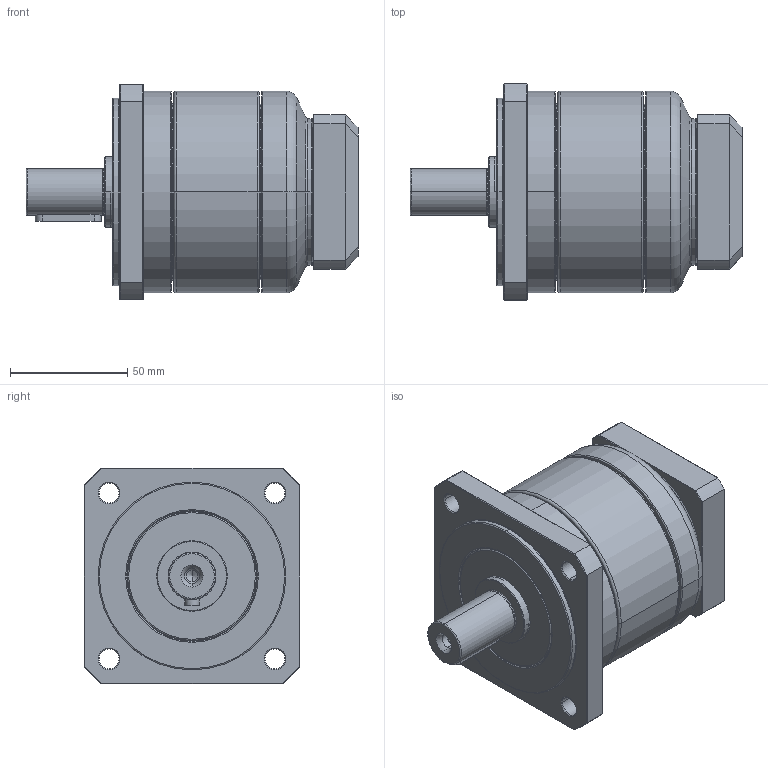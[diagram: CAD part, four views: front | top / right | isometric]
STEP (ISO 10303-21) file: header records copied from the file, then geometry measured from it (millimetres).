
FILE_DESCRIPTION((''),'2;1');
FILE_NAME('PG2-080A_1ST_14_P0411300101_ASM','2016-04-29T',('d01943'),(''),'PRO/ENGINEER BY PARAMETRIC TECHNOLOGY CORPORATION, 2008410','PRO/ENGINEER BY PARAMETRIC TECHNOLOGY CORPORATION, 2008410','');
FILE_SCHEMA(('CONFIG_CONTROL_DESIGN'));
Length unit declared in the file: millimetre
Products named in the file (9): P1326300001; P0250300001; P1324300001; P0350301103; P0941300001; P0503300005; P0411300101; P1702300001; PG2-080A_1ST_14_P0411300101_ASM
Assembly tree (8 placements, depth 2):
  PG2-080A_1ST_14_P0411300101_ASM
    P1326300001
    P0250300001
    P1324300001
    P0350301103
    P0941300001
    P0503300005
    P0411300101
    P1702300001
Bounding box: 141.5 x 92 x 92 mm (x, y, z)
Volume: 480596.3 mm3; surface area: 112863.8 mm2
Topology: 8 solids, 9 shells, 485 faces, 1073 edges, 620 vertices
Faces by surface type: cone 152, cylinder 139, plane 92, torus 90, bspline 12
Entity records: 17799 total; most frequent: CARTESIAN_POINT 6824, DIRECTION 2490, ORIENTED_EDGE 2090, AXIS2_PLACEMENT_3D 1062, EDGE_CURVE 1045, VERTEX_POINT 620, CIRCLE 572, EDGE_LOOP 553
